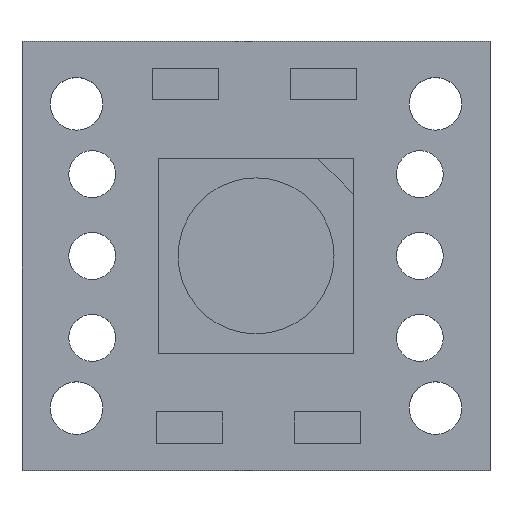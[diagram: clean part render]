
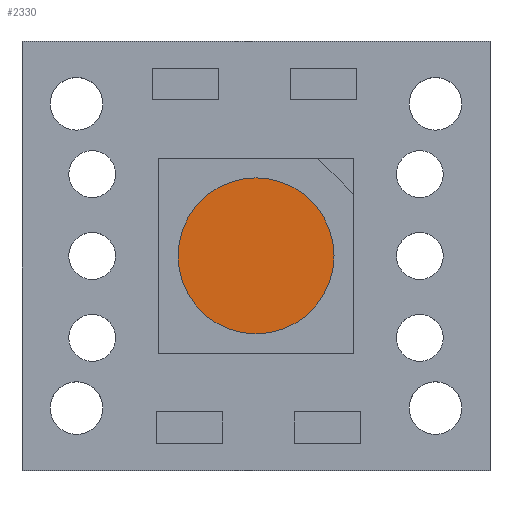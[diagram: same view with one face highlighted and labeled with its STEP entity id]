
A CAD part, top view. The second image highlights one B-rep face of the part: STEP entity #2330.
In plain terms, the highlighted planar face has unit normal (0, 0, 1).
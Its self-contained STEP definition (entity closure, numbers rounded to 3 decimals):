
#2239 = VERTEX_POINT('',#2240);
#2240 = CARTESIAN_POINT('',(2.,0.,0.31));
#2247 = CYLINDRICAL_SURFACE('',#2248,2.);
#2248 = AXIS2_PLACEMENT_3D('',#2249,#2250,#2251);
#2249 = CARTESIAN_POINT('',(0.,0.,0.));
#2250 = DIRECTION('',(0.,0.,-1.));
#2251 = DIRECTION('',(1.,0.,0.));
#2297 = EDGE_CURVE('',#2239,#2239,#2298,.T.);
#2298 = SURFACE_CURVE('',#2299,(#2304,#2310),.PCURVE_S1.);
#2299 = CIRCLE('',#2300,2.);
#2300 = AXIS2_PLACEMENT_3D('',#2301,#2302,#2303);
#2301 = CARTESIAN_POINT('',(0.,0.,0.31));
#2302 = DIRECTION('',(0.,0.,1.));
#2303 = DIRECTION('',(1.,0.,0.));
#2304 = PCURVE('',#2247,#2305);
#2305 = DEFINITIONAL_REPRESENTATION('',(#2306),#2309);
#2306 = B_SPLINE_CURVE_WITH_KNOTS('',1,(#2307,#2308),.UNSPECIFIED.,.F.,
  .F.,(2,2),(0.,6.283),.PIECEWISE_BEZIER_KNOTS.);
#2307 = CARTESIAN_POINT('',(6.283,-0.31));
#2308 = CARTESIAN_POINT('',(0.,-0.31));
#2309 = ( GEOMETRIC_REPRESENTATION_CONTEXT(2) 
PARAMETRIC_REPRESENTATION_CONTEXT() REPRESENTATION_CONTEXT('2D SPACE',''
  ) );
#2310 = PCURVE('',#2311,#2316);
#2311 = PLANE('',#2312);
#2312 = AXIS2_PLACEMENT_3D('',#2313,#2314,#2315);
#2313 = CARTESIAN_POINT('',(2.,0.,0.31));
#2314 = DIRECTION('',(0.,0.,-1.));
#2315 = DIRECTION('',(-1.,0.,0.));
#2316 = DEFINITIONAL_REPRESENTATION('',(#2317),#2325);
#2317 = ( BOUNDED_CURVE() B_SPLINE_CURVE(2,(#2318,#2319,#2320,#2321,
#2322,#2323,#2324),.UNSPECIFIED.,.F.,.F.) B_SPLINE_CURVE_WITH_KNOTS((1,2
    ,2,2,2,1),(-2.094,0.,2.094,4.189,
6.283,8.378),.UNSPECIFIED.) CURVE() 
GEOMETRIC_REPRESENTATION_ITEM() RATIONAL_B_SPLINE_CURVE((1.,0.5,1.,0.5,
1.,0.5,1.)) REPRESENTATION_ITEM('') );
#2318 = CARTESIAN_POINT('',(0.,0.));
#2319 = CARTESIAN_POINT('',(0.,3.464));
#2320 = CARTESIAN_POINT('',(3.,1.732));
#2321 = CARTESIAN_POINT('',(6.,0.));
#2322 = CARTESIAN_POINT('',(3.,-1.732));
#2323 = CARTESIAN_POINT('',(0.,-3.464));
#2324 = CARTESIAN_POINT('',(0.,0.));
#2325 = ( GEOMETRIC_REPRESENTATION_CONTEXT(2) 
PARAMETRIC_REPRESENTATION_CONTEXT() REPRESENTATION_CONTEXT('2D SPACE',''
  ) );
#2330 = ADVANCED_FACE('',(#2331),#2311,.F.);
#2331 = FACE_BOUND('',#2332,.T.);
#2332 = EDGE_LOOP('',(#2333));
#2333 = ORIENTED_EDGE('',*,*,#2297,.T.);
